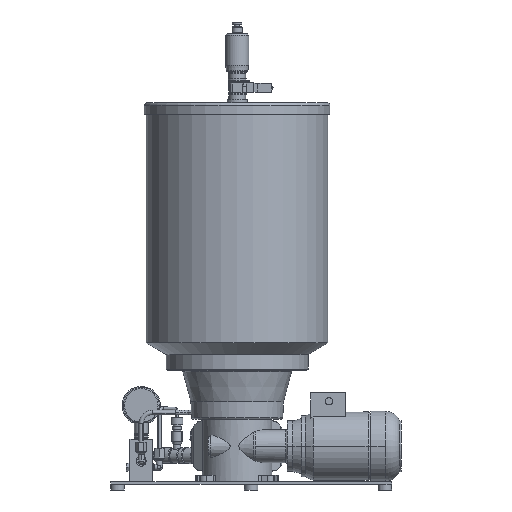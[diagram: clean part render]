
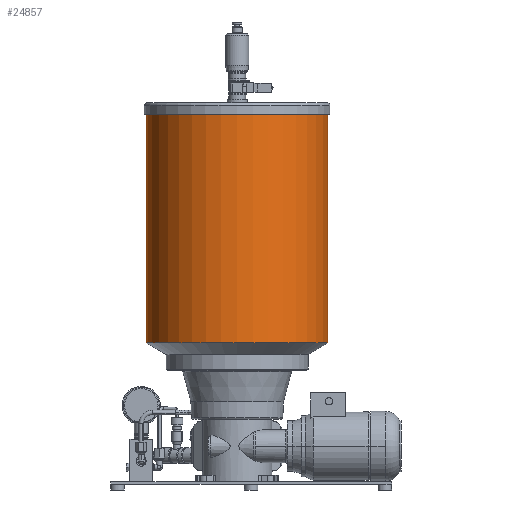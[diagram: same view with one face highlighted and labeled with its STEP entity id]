
A CAD part, left-side view. The second image highlights one B-rep face of the part: STEP entity #24857.
In plain terms, the highlighted cylindrical face has radius 161.75 mm (diameter 323.5 mm), a partial arc.
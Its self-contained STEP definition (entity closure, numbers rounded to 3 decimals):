
#20175=CARTESIAN_POINT('',(161.75,0.0,-82.449));
#20176=VERTEX_POINT('',#20175);
#20184=CARTESIAN_POINT('',(-161.75,0.,-82.449));
#20185=VERTEX_POINT('',#20184);
#20207=CARTESIAN_POINT('',(161.75,0.0,325.443));
#20208=VERTEX_POINT('',#20207);
#20209=CARTESIAN_POINT('',(161.75,0.0,-82.449));
#20210=DIRECTION('',(0.0,0.0,1.0));
#20211=VECTOR('',#20210,407.892);
#20212=LINE('',#20209,#20211);
#20213=EDGE_CURVE('',#20176,#20208,#20212,.T.);
#20216=CARTESIAN_POINT('',(-161.75,0.,325.443));
#20217=VERTEX_POINT('',#20216);
#20218=CARTESIAN_POINT('',(-161.75,0.,-82.449));
#20219=DIRECTION('',(0.0,0.0,1.0));
#20220=VECTOR('',#20219,407.892);
#20221=LINE('',#20218,#20220);
#20222=EDGE_CURVE('',#20185,#20217,#20221,.T.);
#24829=CARTESIAN_POINT('',(0.,0.0,325.443));
#24830=DIRECTION('',(0.0,0.0,-1.0));
#24831=DIRECTION('',(1.0,0.0,0.0));
#24832=AXIS2_PLACEMENT_3D('',#24829,#24830,#24831);
#24833=CIRCLE('',#24832,161.75);
#24834=EDGE_CURVE('',#20208,#20217,#24833,.T.);
#24840=CARTESIAN_POINT('',(0.,0.0,121.497));
#24841=DIRECTION('',(0.,0.0,-1.0));
#24842=DIRECTION('',(1.0,0.0,0.0));
#24843=AXIS2_PLACEMENT_3D('',#24840,#24841,#24842);
#24844=CYLINDRICAL_SURFACE('',#24843,161.75);
#24845=ORIENTED_EDGE('',*,*,#20213,.T.);
#24846=ORIENTED_EDGE('',*,*,#24834,.T.);
#24847=ORIENTED_EDGE('',*,*,#20222,.F.);
#24848=CARTESIAN_POINT('',(0.,0.0,-82.449));
#24849=DIRECTION('',(0.0,0.0,-1.0));
#24850=DIRECTION('',(1.0,0.0,0.0));
#24851=AXIS2_PLACEMENT_3D('',#24848,#24849,#24850);
#24852=CIRCLE('',#24851,161.75);
#24853=EDGE_CURVE('',#20176,#20185,#24852,.T.);
#24854=ORIENTED_EDGE('',*,*,#24853,.F.);
#24855=EDGE_LOOP('',(#24845,#24846,#24847,#24854));
#24856=FACE_OUTER_BOUND('',#24855,.T.);
#24857=ADVANCED_FACE('',(#24856),#24844,.T.);
